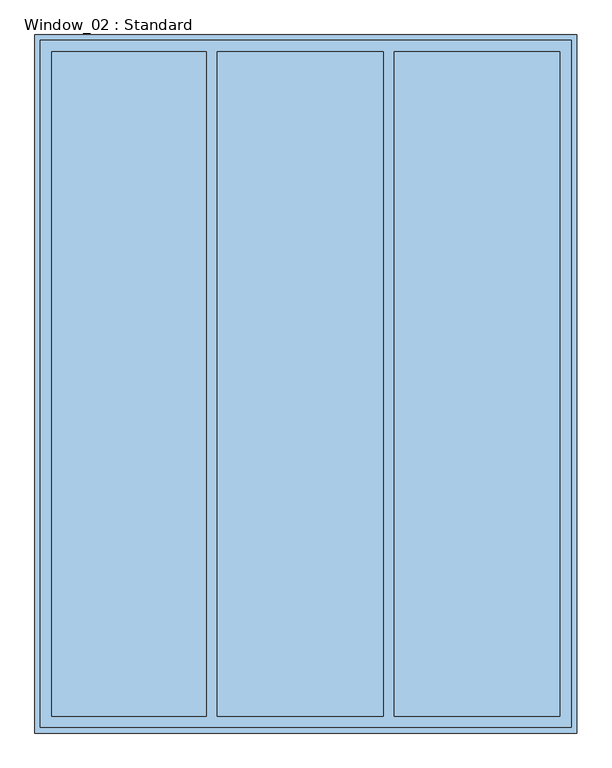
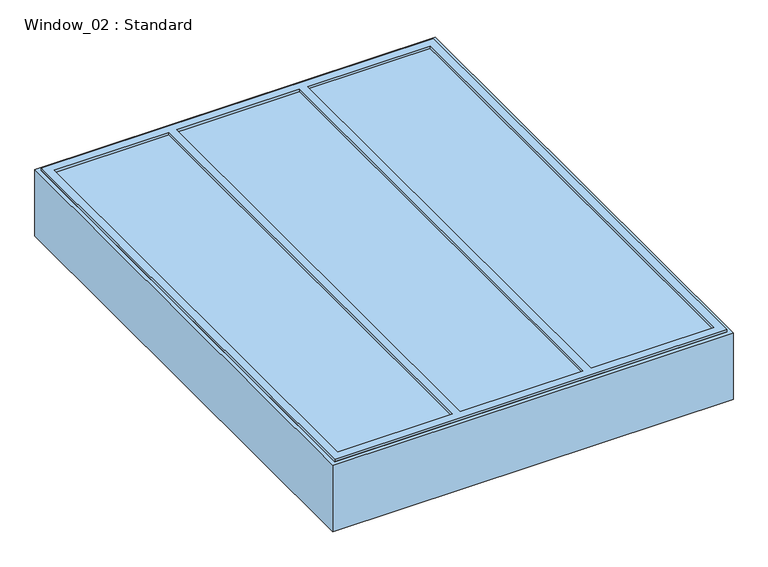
"""IFC4 building model written with IfcOpenShell, lengths in millimetres: window geometry, Window_02 : Standard."""

from ifc_helpers import new_model, si_unit, frame, origin, origin_with_axes, place, context, project, spatial, polyline, outline, extrude, source, transform, mapped, element, save


def window_02_standard_1b0e09d1(model_context):
    return source(origin(), model_context, "Body", "SweptSolid", [
        extrude(outline(polyline([(-950.0, -1230.0), (-950.0, 1230.0), (950.0, 1230.0), (950.0, -1230.0), (-950.0, -1230.0)]), holes=[polyline([(-910.0, 1190.0), (-910.0, -1190.0), (-356.6666667, -1190.0), (-356.6666667, 1190.0), (-910.0, 1190.0)]), polyline([(276.6666667, 1190.0), (-316.6666667, 1190.0), (-316.6666667, -1190.0), (276.6666667, -1190.0), (276.6666667, 1190.0)]), polyline([(316.6666667, -1190.0), (910.0, -1190.0), (910.0, 1190.0), (316.6666667, 1190.0), (316.6666667, -1190.0)])]), frame((0.0, 0.0, 335.094128), z_axis=(0.0, 0.0, 1.0), x_axis=(1.0, 0.0, 0.0)), (0.0, 0.0, 1.0), 17.0543259),
        extrude(outline(polyline([(-910.0, 1190.0), (910.0, 1190.0), (910.0, -1190.0), (-910.0, -1190.0), (-910.0, 1190.0)])), frame((0.0, 0.0, 335.094128), z_axis=(0.0, 0.0, 1.0), x_axis=(1.0, 0.0, 0.0)), (0.0, 0.0, 1.0), 4.905872),
        extrude(outline(polyline([(950.0, 1230.0), (950.0, -1230.0), (-950.0, -1230.0), (-950.0, 1230.0), (950.0, 1230.0)]), holes=[polyline([(-910.0, 1190.0), (-910.0, -1190.0), (910.0, -1190.0), (910.0, 1190.0), (-910.0, 1190.0)])]), frame((0.0, 0.0, 270.0), z_axis=(0.0, 0.0, 1.0), x_axis=(1.0, 0.0, 0.0)), (0.0, 0.0, 1.0), 70.0),
        extrude(outline(polyline([(970.0, 1250.0), (970.0, -1250.0), (-970.0, -1250.0), (-970.0, 1250.0), (970.0, 1250.0)]), holes=[polyline([(950.0, 1230.0), (-950.0, 1230.0), (-950.0, -1230.0), (950.0, -1230.0), (950.0, 1230.0)])]), origin_with_axes(), (0.0, 0.0, 1.0), 340.0),
    ])


if __name__ == "__main__":
    model = new_model("IFC4")
    model_context = context("Model", 3, world=origin())
    ifc_project = project(units=[si_unit("LENGTHUNIT", "METRE", prefix="MILLI")], contexts=[model_context])
    site = spatial("IfcSite", under=ifc_project)
    building = spatial("IfcBuilding", under=site)
    placement = place(None, origin())
    window_02_standard_shape = window_02_standard_1b0e09d1(model_context)
    element("IfcWindow", 1, ObjectType="Window_02 : Standard", at=placement, inside=building, context=model_context, shape_type="MappedRepresentation", body=[
        mapped(window_02_standard_shape, transform((0.0, 0.0, 0.0), x_axis=(1.0, 0.0, 0.0), y_axis=(0.0, 1.0, 0.0), z_axis=(0.0, 0.0, 1.0))),
    ])
    save(model, "model.ifc")
